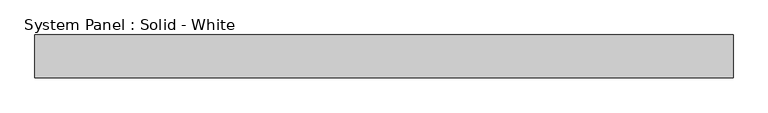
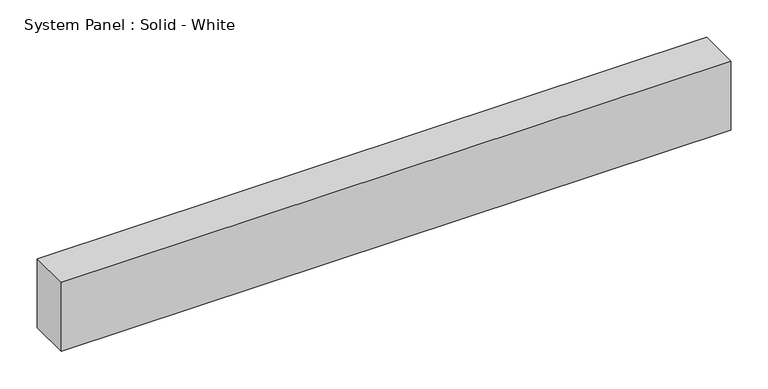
"""IFC4 building model written with IfcOpenShell, lengths in millimetres: plate geometry, System Panel : Solid - White."""

from ifc_helpers import new_model, si_unit, origin, origin_with_axes, place, context, project, spatial, polyline, outline, extrude, source, transform, mapped, element, save


def system_panel_solid_white_2ed7a0ec(model_context):
    return source(origin(), model_context, "Body", "SweptSolid", [
        extrude(outline(polyline([(516.255, -19.05), (-516.255, -19.05), (-516.255, 44.45), (516.255, 44.45), (516.255, -19.05)])), origin_with_axes(), (0.0, 0.0, 1.0), 112.476362),
    ])


if __name__ == "__main__":
    model = new_model("IFC4")
    model_context = context("Model", 3, world=origin())
    ifc_project = project(units=[si_unit("LENGTHUNIT", "METRE", prefix="MILLI")], contexts=[model_context])
    site = spatial("IfcSite", under=ifc_project)
    building = spatial("IfcBuilding", under=site)
    placement = place(None, origin())
    system_panel_solid_white_shape = system_panel_solid_white_2ed7a0ec(model_context)
    element("IfcPlate", 1, ObjectType="System Panel : Solid - White", at=placement, inside=building, context=model_context, shape_type="MappedRepresentation", body=[
        mapped(system_panel_solid_white_shape, transform((0.0, 0.0, 0.0), x_axis=(1.0, 0.0, 0.0), y_axis=(0.0, 1.0, 0.0), z_axis=(0.0, 0.0, 1.0))),
    ])
    save(model, "model.ifc")
